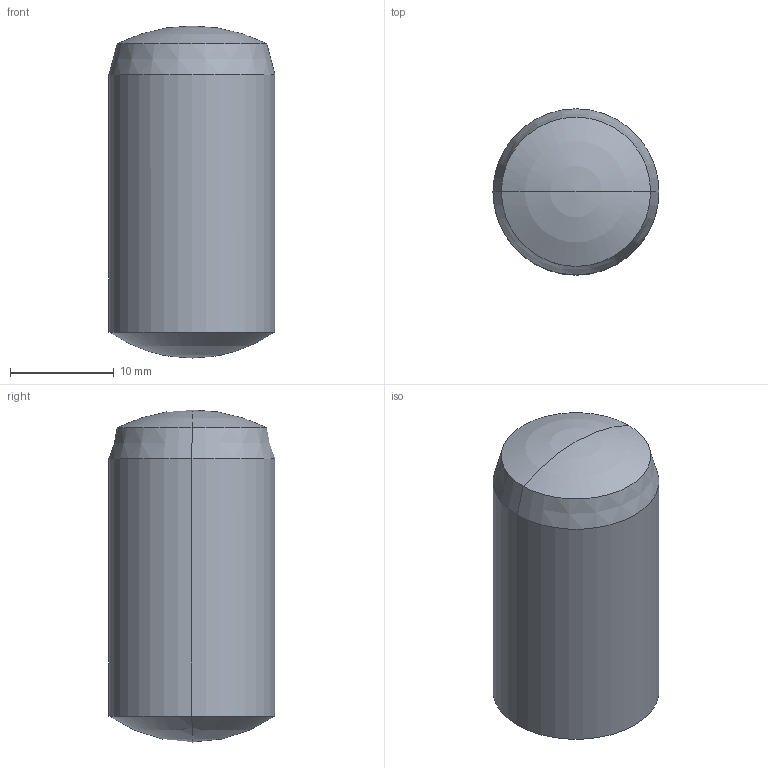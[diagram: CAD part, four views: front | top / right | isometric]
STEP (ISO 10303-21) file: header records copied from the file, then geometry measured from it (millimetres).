
FILE_DESCRIPTION(('STEP AP214'),'1');
FILE_NAME('cctmp_407ABD2E-7D85-4285-B14D-587C7CCB0656_2025_05_07_13_17_05_0698_10296..stp','2025-05-07T11:17:05',('KiM GmbH'),('CADClick - www.CADClick.com'),'Spatial InterOp 3D',' ','unknown authorization');
FILE_SCHEMA(('AUTOMOTIVE_DESIGN'));
Length unit declared in the file: millimetre
Products named in the file (1): E 1300_16x32
Bounding box: 16 x 16 x 32 mm (x, y, z)
Volume: 5931.3 mm3; surface area: 1787.3 mm2
Topology: 1 solids, 1 shells, 9 faces, 22 edges, 12 vertices
Faces by surface type: sphere 4, cylinder 2, cone 2, plane 1
Entity records: 342 total; most frequent: DIRECTION 52, CARTESIAN_POINT 40, ORIENTED_EDGE 36, AXIS2_PLACEMENT_3D 24, EDGE_CURVE 18, CIRCLE 14, VERTEX_POINT 12, STYLED_ITEM 10
